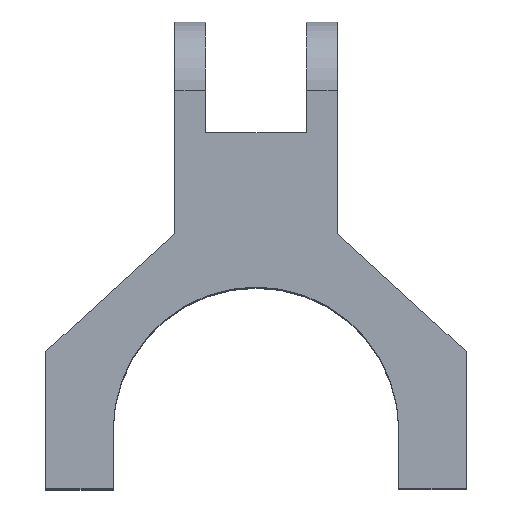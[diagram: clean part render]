
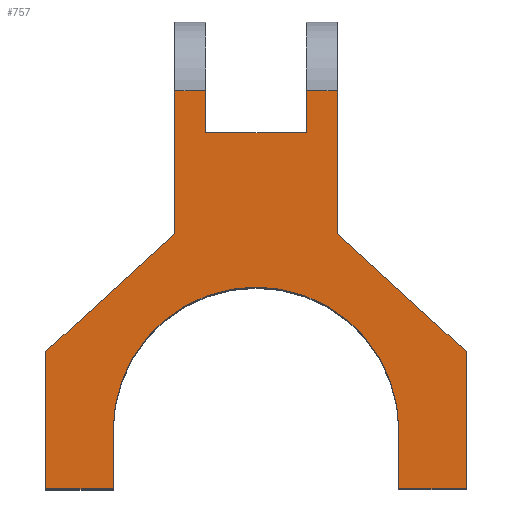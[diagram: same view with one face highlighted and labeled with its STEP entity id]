
A CAD part, top view. The second image highlights one B-rep face of the part: STEP entity #757.
In plain terms, the highlighted planar face has unit normal (0, 0, 1).
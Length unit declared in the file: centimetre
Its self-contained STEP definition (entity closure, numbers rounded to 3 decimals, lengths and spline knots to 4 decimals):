
#243=VERTEX_POINT('',#2365);
#244=VERTEX_POINT('',#2366);
#247=VERTEX_POINT('',#2374);
#250=VERTEX_POINT('',#2382);
#262=VERTEX_POINT('',#2411);
#263=VERTEX_POINT('',#2413);
#266=VERTEX_POINT('',#2424);
#267=VERTEX_POINT('',#2426);
#295=VERTEX_POINT('',#2505);
#296=VERTEX_POINT('',#2507);
#297=VERTEX_POINT('',#2516);
#298=VERTEX_POINT('',#2518);
#299=VERTEX_POINT('',#2520);
#300=VERTEX_POINT('',#2522);
#301=VERTEX_POINT('',#2524);
#302=VERTEX_POINT('',#2526);
#315=EDGE_CURVE('',#243,#244,#1355,.T.);
#319=EDGE_CURVE('',#244,#247,#1359,.T.);
#324=EDGE_CURVE('',#250,#243,#1364,.T.);
#341=EDGE_CURVE('',#262,#263,#1378,.T.);
#349=EDGE_CURVE('',#266,#267,#1386,.T.);
#392=EDGE_CURVE('',#295,#296,#1423,.T.);
#394=EDGE_CURVE('',#296,#262,#1424,.T.);
#395=EDGE_CURVE('',#263,#250,#1425,.T.);
#397=EDGE_CURVE('',#247,#266,#1427,.T.);
#398=EDGE_CURVE('',#267,#297,#1428,.T.);
#400=EDGE_CURVE('',#297,#298,#1429,.T.);
#402=EDGE_CURVE('',#298,#299,#1430,.T.);
#404=EDGE_CURVE('',#299,#300,#1431,.T.);
#406=EDGE_CURVE('',#300,#301,#857,.T.);
#408=EDGE_CURVE('',#301,#302,#1432,.T.);
#410=EDGE_CURVE('',#302,#295,#1433,.T.);
#595=ORIENTED_EDGE('',*,*,#392,.F.);
#596=ORIENTED_EDGE('',*,*,#410,.F.);
#597=ORIENTED_EDGE('',*,*,#408,.F.);
#598=ORIENTED_EDGE('',*,*,#406,.F.);
#599=ORIENTED_EDGE('',*,*,#404,.F.);
#600=ORIENTED_EDGE('',*,*,#402,.F.);
#601=ORIENTED_EDGE('',*,*,#400,.F.);
#602=ORIENTED_EDGE('',*,*,#398,.F.);
#603=ORIENTED_EDGE('',*,*,#349,.F.);
#604=ORIENTED_EDGE('',*,*,#397,.F.);
#605=ORIENTED_EDGE('',*,*,#319,.F.);
#606=ORIENTED_EDGE('',*,*,#315,.F.);
#607=ORIENTED_EDGE('',*,*,#324,.F.);
#608=ORIENTED_EDGE('',*,*,#395,.F.);
#609=ORIENTED_EDGE('',*,*,#341,.F.);
#610=ORIENTED_EDGE('',*,*,#394,.F.);
#671=EDGE_LOOP('',(#595,#596,#597,#598,#599,#600,#601,#602,#603,#604,#605,
#606,#607,#608,#609,#610));
#717=FACE_BOUND('',#671,.T.);
#757=ADVANCED_FACE('',(#717),#2102,.T.);
#857=CIRCLE('',#1897,0.102);
#1355=LINE('',#2364,#1994);
#1359=LINE('',#2373,#1998);
#1364=LINE('',#2383,#2003);
#1378=LINE('',#2412,#2017);
#1386=LINE('',#2425,#2025);
#1423=LINE('',#2506,#2062);
#1424=LINE('',#2508,#2063);
#1425=LINE('',#2510,#2064);
#1427=LINE('',#2514,#2066);
#1428=LINE('',#2515,#2067);
#1429=LINE('',#2517,#2068);
#1430=LINE('',#2519,#2069);
#1431=LINE('',#2521,#2070);
#1432=LINE('',#2525,#2071);
#1433=LINE('',#2527,#2072);
#1897=AXIS2_PLACEMENT_3D('',#2523,#2766,#2767);
#1898=AXIS2_PLACEMENT_3D('',#2528,#2770,$);
#1994=VECTOR('',#2661,1.);
#1998=VECTOR('',#2666,1.);
#2003=VECTOR('',#2672,1.);
#2017=VECTOR('',#2689,1.);
#2025=VECTOR('',#2698,1.);
#2062=VECTOR('',#2754,1.);
#2063=VECTOR('',#2755,1.);
#2064=VECTOR('',#2757,1.);
#2066=VECTOR('',#2761,1.);
#2067=VECTOR('',#2762,1.);
#2068=VECTOR('',#2763,1.);
#2069=VECTOR('',#2764,1.);
#2070=VECTOR('',#2765,1.);
#2071=VECTOR('',#2768,1.);
#2072=VECTOR('',#2769,1.);
#2102=PLANE('',#1898);
#2364=CARTESIAN_POINT('',(-0.018,0.254,0.504));
#2365=CARTESIAN_POINT('',(-0.036,0.254,0.504));
#2366=CARTESIAN_POINT('',(0.036,0.254,0.504));
#2373=CARTESIAN_POINT('',(0.036,0.284,0.504));
#2374=CARTESIAN_POINT('',(0.036,0.284,0.504));
#2382=CARTESIAN_POINT('',(-0.036,0.284,0.504));
#2383=CARTESIAN_POINT('',(-0.036,0.242,0.504));
#2411=CARTESIAN_POINT('',(-0.058,0.182,0.504));
#2412=CARTESIAN_POINT('',(-0.058,0.284,0.504));
#2413=CARTESIAN_POINT('',(-0.058,0.284,0.504));
#2424=CARTESIAN_POINT('',(0.058,0.284,0.504));
#2425=CARTESIAN_POINT('',(0.058,0.182,0.504));
#2426=CARTESIAN_POINT('',(0.058,0.182,0.504));
#2505=CARTESIAN_POINT('',(-0.15,0.,0.504));
#2506=CARTESIAN_POINT('',(-0.15,0.098,0.504));
#2507=CARTESIAN_POINT('',(-0.15,0.098,0.504));
#2508=CARTESIAN_POINT('',(-0.058,0.182,0.504));
#2510=CARTESIAN_POINT('',(-0.036,0.284,0.504));
#2514=CARTESIAN_POINT('',(0.058,0.284,0.504));
#2515=CARTESIAN_POINT('',(0.15,0.098,0.504));
#2516=CARTESIAN_POINT('',(0.15,0.098,0.504));
#2517=CARTESIAN_POINT('',(0.15,0.,0.504));
#2518=CARTESIAN_POINT('',(0.15,0.,0.504));
#2519=CARTESIAN_POINT('',(0.102,0.,0.504));
#2520=CARTESIAN_POINT('',(0.102,0.,0.504));
#2521=CARTESIAN_POINT('',(0.102,0.042,0.504));
#2522=CARTESIAN_POINT('',(0.102,0.042,0.504));
#2523=CARTESIAN_POINT('',(0.,0.042,0.504));
#2524=CARTESIAN_POINT('',(-0.102,0.042,0.504));
#2525=CARTESIAN_POINT('',(-0.102,0.,0.504));
#2526=CARTESIAN_POINT('',(-0.102,0.,0.504));
#2527=CARTESIAN_POINT('',(-0.15,0.,0.504));
#2528=CARTESIAN_POINT('',(0.,0.1319,0.504));
#2661=DIRECTION('',(1.,0.,0.));
#2666=DIRECTION('',(0.,1.,0.));
#2672=DIRECTION('',(0.,-1.,0.));
#2689=DIRECTION('',(0.,1.,0.));
#2698=DIRECTION('',(0.,-1.,0.));
#2754=DIRECTION('',(0.,1.,0.));
#2755=DIRECTION('',(0.738,0.674,0.));
#2757=DIRECTION('',(1.,0.,0.));
#2761=DIRECTION('',(1.,0.,0.));
#2762=DIRECTION('',(0.738,-0.674,0.));
#2763=DIRECTION('',(0.,-1.,0.));
#2764=DIRECTION('',(-1.,0.,0.));
#2765=DIRECTION('',(0.,1.,0.));
#2766=DIRECTION('',(0.,0.,1.));
#2767=DIRECTION('',(0.102,0.,0.));
#2768=DIRECTION('',(0.,-1.,0.));
#2769=DIRECTION('',(-1.,0.,0.));
#2770=DIRECTION('',(0.,0.,1.));
